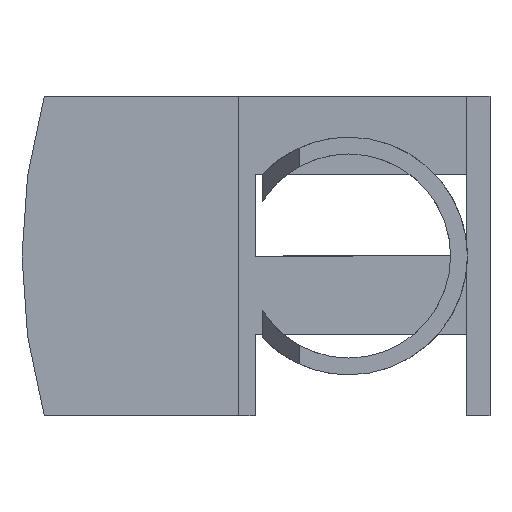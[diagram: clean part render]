
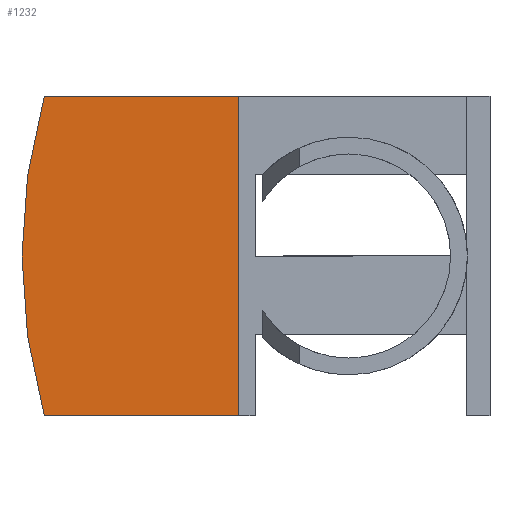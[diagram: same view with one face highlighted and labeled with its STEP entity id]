
A CAD part, left-side view. The second image highlights one B-rep face of the part: STEP entity #1232.
In plain terms, the highlighted planar face has unit normal (-1, 0, 0).
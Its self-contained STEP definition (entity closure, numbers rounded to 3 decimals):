
#2 = CARTESIAN_POINT ( 'NONE',  ( 14.9, 17.2, -21.9 ) ) ;
#30 = VECTOR ( 'NONE', #1312, 1000. ) ;
#71 = CARTESIAN_POINT ( 'NONE',  ( 14.9, 19.5, 21.9 ) ) ;
#126 = DIRECTION ( 'NONE',  ( -1., 0., 0. ) ) ;
#131 = LINE ( 'NONE', #1033, #30 ) ;
#272 = EDGE_CURVE ( 'NONE', #927, #305, #648, .T. ) ;
#294 = EDGE_CURVE ( 'NONE', #586, #927, #131, .T. ) ;
#305 = VERTEX_POINT ( 'NONE', #663 ) ;
#431 = ORIENTED_EDGE ( 'NONE', *, *, #294, .F. ) ;
#473 = CIRCLE ( 'NONE', #1249, 80. ) ;
#547 = VERTEX_POINT ( 'NONE', #717 ) ;
#586 = VERTEX_POINT ( 'NONE', #71 ) ;
#607 = CARTESIAN_POINT ( 'NONE',  ( 14.9, 17.2, 21.9 ) ) ;
#617 = PLANE ( 'NONE',  #1220 ) ;
#648 = LINE ( 'NONE', #2, #1659 ) ;
#663 = CARTESIAN_POINT ( 'NONE',  ( 14.9, 46.144, -21.9 ) ) ;
#686 = EDGE_LOOP ( 'NONE', ( #1047, #1234, #431, #694 ) ) ;
#694 = ORIENTED_EDGE ( 'NONE', *, *, #1602, .T. ) ;
#717 = CARTESIAN_POINT ( 'NONE',  ( 14.9, 46.144, 21.9 ) ) ;
#799 = DIRECTION ( 'NONE',  ( 0., 0., 1. ) ) ;
#913 = CARTESIAN_POINT ( 'NONE',  ( 14.9, 17.2, 21.9 ) ) ;
#927 = VERTEX_POINT ( 'NONE', #1665 ) ;
#1025 = EDGE_CURVE ( 'NONE', #547, #305, #473, .T. ) ;
#1033 = CARTESIAN_POINT ( 'NONE',  ( 14.9, 19.5, 21.9 ) ) ;
#1047 = ORIENTED_EDGE ( 'NONE', *, *, #1025, .T. ) ;
#1140 = DIRECTION ( 'NONE',  ( 0., 1., 0. ) ) ;
#1195 = CARTESIAN_POINT ( 'NONE',  ( 14.9, -30.8, 0. ) ) ;
#1220 = AXIS2_PLACEMENT_3D ( 'NONE', #913, #1289, #1423 ) ;
#1232 = ADVANCED_FACE ( 'NONE', ( #1664 ), #617, .T. ) ;
#1234 = ORIENTED_EDGE ( 'NONE', *, *, #272, .F. ) ;
#1249 = AXIS2_PLACEMENT_3D ( 'NONE', #1195, #126, #799 ) ;
#1289 = DIRECTION ( 'NONE',  ( -1., 0., 0. ) ) ;
#1312 = DIRECTION ( 'NONE',  ( 0., 0., -1. ) ) ;
#1423 = DIRECTION ( 'NONE',  ( 0., 0., 1. ) ) ;
#1473 = VECTOR ( 'NONE', #1140, 1000. ) ;
#1528 = LINE ( 'NONE', #607, #1473 ) ;
#1602 = EDGE_CURVE ( 'NONE', #586, #547, #1528, .T. ) ;
#1659 = VECTOR ( 'NONE', #1692, 1000. ) ;
#1664 = FACE_OUTER_BOUND ( 'NONE', #686, .T. ) ;
#1665 = CARTESIAN_POINT ( 'NONE',  ( 14.9, 19.5, -21.9 ) ) ;
#1692 = DIRECTION ( 'NONE',  ( 0., 1., 0. ) ) ;
